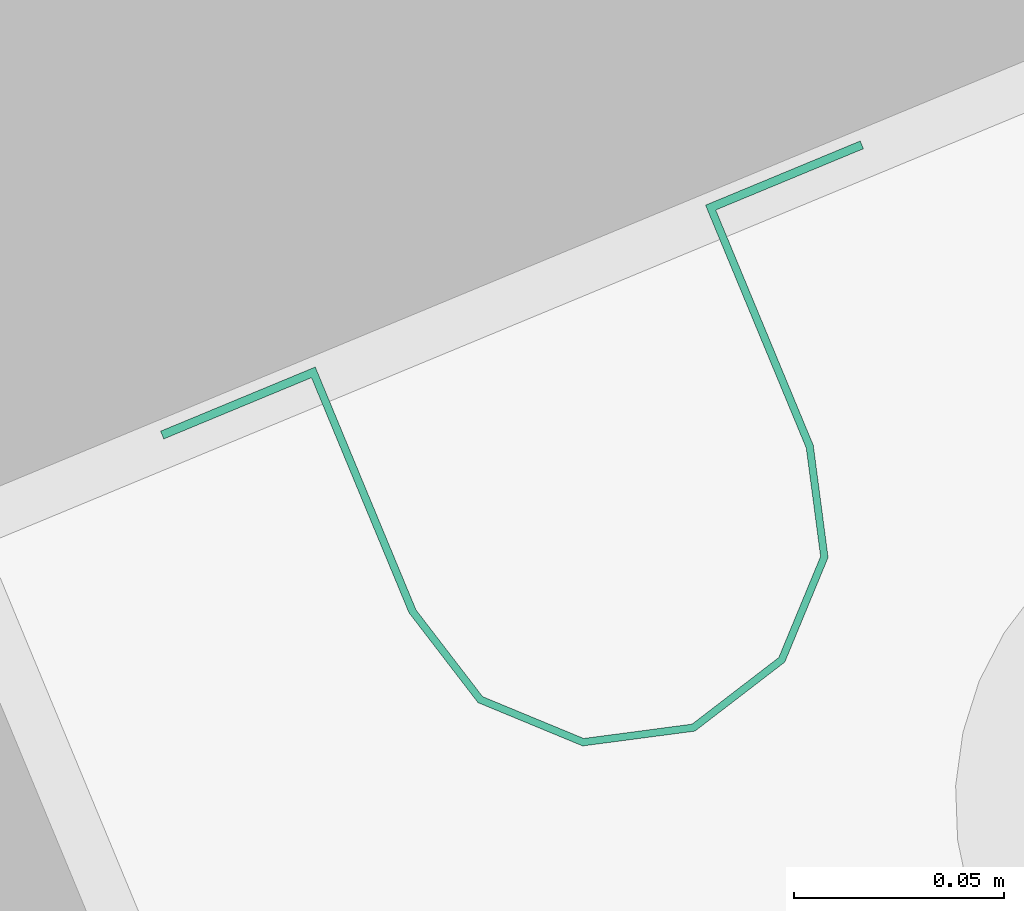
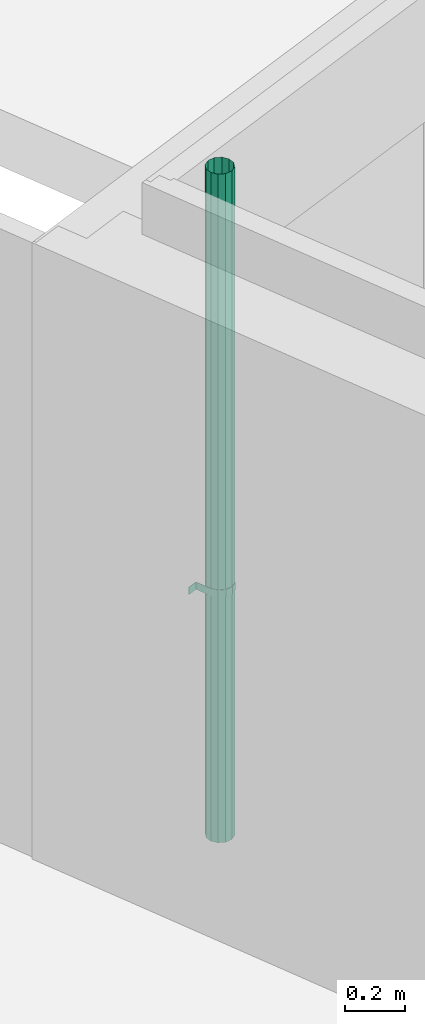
# One storey, part 86 of 119: 1 flow terminal.
"""IFC2X3 building model written with IfcOpenShell, lengths in metres."""

from ifc_helpers import new_model, entity, si_unit, converted_unit, derived_unit, money_unit, direction, frame, origin_with_axes, place, context, subcontext, project, spatial, open_shell, faceted_brep, surface_model, source, transform, mapped, type_object, element, save


model = new_model("IFC2X3")

# Units and contexts
model_context = context("Model", 3, precision=1e-05, world=origin_with_axes(), true_north=direction((0.0, 1.0)))
body_context = subcontext(model_context, "Body", "Model", "MODEL_VIEW")
ifc_project = project(units=[si_unit("LENGTHUNIT", "METRE"), si_unit("AREAUNIT", "SQUARE_METRE"), si_unit("VOLUMEUNIT", "CUBIC_METRE"), converted_unit("PLANEANGLEUNIT", "DEGREE", entity("IfcPlaneAngleMeasure", 0.0174532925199), si_unit("PLANEANGLEUNIT", "RADIAN"), dimensions=[0, 0, 0, 0, 0, 0, 0]), si_unit("SOLIDANGLEUNIT", "STERADIAN"), money_unit("EUR"), converted_unit("TIMEUNIT", "Year", entity("IfcTimeMeasure", 31556926.0), si_unit("TIMEUNIT", "SECOND"), dimensions=[0, 0, 1, 0, 0, 0, 0]), si_unit("MASSUNIT", "GRAM", prefix="KILO"), si_unit("THERMODYNAMICTEMPERATUREUNIT", "DEGREE_CELSIUS"), si_unit("LUMINOUSINTENSITYUNIT", "LUMEN"), si_unit("ENERGYUNIT", "JOULE", prefix="MEGA"), derived_unit("THERMALCONDUCTANCEUNIT", [(si_unit("POWERUNIT", "WATT"), 1), (si_unit("LENGTHUNIT", "METRE"), -1), (si_unit("THERMODYNAMICTEMPERATUREUNIT", "KELVIN"), -1)]), derived_unit("SPECIFICHEATCAPACITYUNIT", [(si_unit("ENERGYUNIT", "JOULE"), 1), (si_unit("MASSUNIT", "GRAM", prefix="KILO"), -1), (si_unit("THERMODYNAMICTEMPERATUREUNIT", "KELVIN"), -1)]), derived_unit("MASSDENSITYUNIT", [(si_unit("MASSUNIT", "GRAM", prefix="KILO"), 1), (si_unit("VOLUMEUNIT", "CUBIC_METRE"), -1)])], contexts=[model_context])

# Site, building, storey
site_placement = place(None, origin_with_axes())
site = spatial("IfcSite", under=ifc_project, at=site_placement, Name="Site", CompositionType="ELEMENT")
building_placement = place(site_placement, origin_with_axes())
building = spatial("IfcBuilding", under=site, at=building_placement, Name="Bâtiment", CompositionType="ELEMENT")
storey_placement = place(building_placement, origin_with_axes())
storey = spatial("IfcBuildingStorey", under=building, at=storey_placement, Name="Rez-de-chaussée", CompositionType="ELEMENT", Elevation=0.0)

# Flow terminal
waste_terminal_type = type_object("IfcWasteTerminalType", Name="Tuyau descente 23", PredefinedType="GULLYTRAP")
shared_shape = source(origin_with_axes(), body_context, "Body", "SurfaceModel", [
    surface_model("IfcShellBasedSurfaceModel", [(0.05, -0.0125, 2.7222918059), (0.0433012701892, -0.0375, 2.7222918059), (0.0433012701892, -0.0375, 0.0), (0.05, -0.0125, 0.0), (0.025, -0.0558012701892, 2.7222918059), (0.025, -0.0558012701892, 0.0), (0.0433012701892, 0.0125, 2.7222918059), (0.0433012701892, 0.0125, 0.0), (0.0, -0.0625, 2.7222918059), (0.0, -0.0625, 0.0), (0.025, 0.0308012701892, 2.7222918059), (0.025, 0.0308012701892, 0.0), (-0.025, -0.0558012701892, 2.7222918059), (-0.025, -0.0558012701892, 0.0), (0.0, 0.0375, 2.7222918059), (0.0, 0.0375, 0.0), (-0.0433012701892, -0.0375, 2.7222918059), (-0.0433012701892, -0.0375, 0.0), (-0.025, 0.0308012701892, 2.7222918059), (-0.025, 0.0308012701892, 0.0), (-0.05, -0.0125, 2.7222918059), (-0.05, -0.0125, 0.0), (-0.0433012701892, 0.0125, 2.7222918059), (-0.0433012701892, 0.0125, 0.0)], [open_shell([[[0, 1, 2, 3]], [[1, 4, 5, 2]], [[6, 0, 3, 7]], [[4, 8, 9, 5]], [[10, 6, 7, 11]], [[8, 12, 13, 9]], [[14, 10, 11, 15]], [[12, 16, 17, 13]], [[18, 14, 15, 19]], [[16, 20, 21, 17]], [[22, 18, 19, 23]], [[20, 22, 23, 21]]])]),
    faceted_brep([(-0.09, 0.0479, 1.0), (-0.052, 0.0479, 1.0), (-0.052, 0.0479, 1.03), (-0.09, 0.0479, 1.03), (-0.09, 0.0499, 1.0), (-0.0502, 0.0499, 1.0), (-0.0502, -0.0126, 1.0), (-0.04347447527, -0.0377, 1.0), (-0.0251, -0.05607447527, 1.0), (0.0, -0.0628, 1.0), (0.0251, -0.05607447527, 1.0), (0.04347447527, -0.0377, 1.0), (0.0502, -0.0126, 1.0), (0.0502, 0.0499, 1.0), (0.09, 0.0499, 1.0), (0.09, 0.0479, 1.0), (0.052, 0.0479, 1.0), (0.052, -0.0126, 1.0), (0.0450333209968, -0.0386, 1.0), (0.026, -0.0576333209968, 1.0), (0.0, -0.0646, 1.0), (-0.026, -0.0576333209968, 1.0), (-0.0450333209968, -0.0386, 1.0), (-0.052, -0.0126, 1.0), (-0.052, -0.0126, 1.03), (-0.0450333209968, -0.0386, 1.03), (-0.026, -0.0576333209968, 1.03), (0.0, -0.0646, 1.03), (0.026, -0.0576333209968, 1.03), (0.0450333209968, -0.0386, 1.03), (0.052, -0.0126, 1.03), (0.052, 0.0479, 1.03), (0.09, 0.0479, 1.03), (0.09, 0.0499, 1.03), (0.0502, 0.0499, 1.03), (0.0502, -0.0126, 1.03), (0.04347447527, -0.0377, 1.03), (0.0251, -0.05607447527, 1.03), (0.0, -0.0628, 1.03), (-0.0251, -0.05607447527, 1.03), (-0.04347447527, -0.0377, 1.03), (-0.0502, -0.0126, 1.03), (-0.0502, 0.0499, 1.03), (-0.09, 0.0499, 1.03)], [[[0, 1, 2, 3]], [[0, 4, 5, 6, 7, 8, 9, 10, 11, 12, 13, 14, 15, 16, 17, 18, 19, 20, 21, 22, 23, 1]], [[1, 23, 24, 2]], [[3, 2, 24, 25, 26, 27, 28, 29, 30, 31, 32, 33, 34, 35, 36, 37, 38, 39, 40, 41, 42, 43]], [[4, 0, 3, 43]], [[5, 4, 43, 42]], [[6, 5, 42, 41]], [[7, 6, 41, 40]], [[8, 7, 40, 39]], [[9, 8, 39, 38]], [[10, 9, 38, 37]], [[11, 10, 37, 36]], [[12, 11, 36, 35]], [[13, 12, 35, 34]], [[14, 13, 34, 33]], [[15, 14, 33, 32]], [[16, 15, 32, 31]], [[17, 16, 31, 30]], [[18, 17, 30, 29]], [[19, 18, 29, 28]], [[20, 19, 28, 27]], [[21, 20, 27, 26]], [[22, 21, 26, 25]], [[23, 22, 25, 24]]]),
])
flow_terminal_placement = place(storey_placement, frame((-14.4677643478, -23.0167914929, 0.0), z_axis=(0.0, 0.0, 1.0), x_axis=(0.923701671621, 0.383112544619, 0.0)))
element("IfcFlowTerminal", 1, at=flow_terminal_placement, inside=storey, type_object=waste_terminal_type, Name="MOB-006", context=body_context, shape_type="MappedRepresentation", body=[
    mapped(shared_shape, transform((0.0, 0.0, 0.0))),
])

save(model, "model.ifc")
